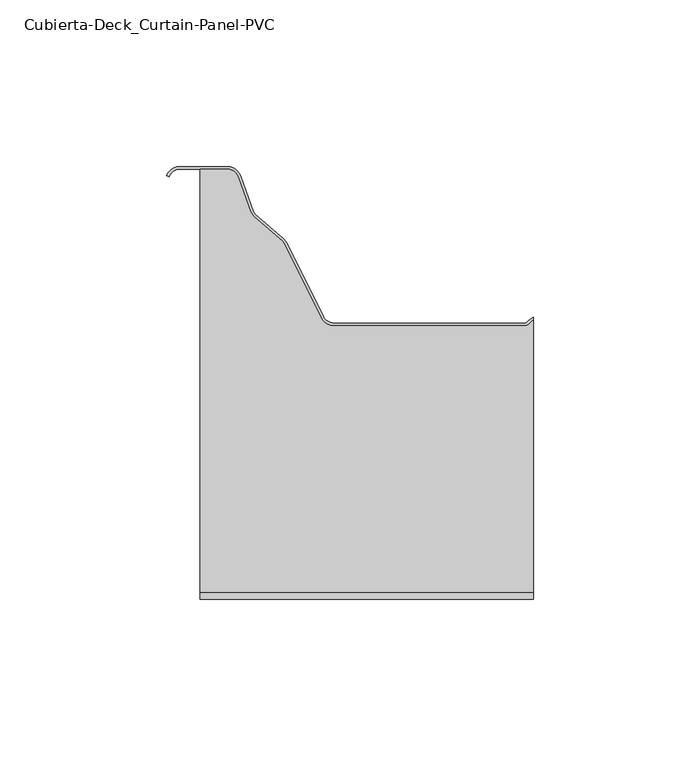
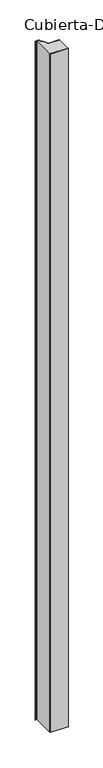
"""IFC4 building model written with IfcOpenShell, lengths in millimetres: plate geometry, Cubierta-Deck_Curtain-Panel-PVC : ACH_Cubierta-Deck_MW_80 mm."""

from ifc_helpers import new_model, si_unit, point, frame_2d, origin, origin_with_axes, place, context, project, spatial, polyline, circle_curve, trimmed, segment, composite_curve, outline, extrude, source, transform, mapped, element, save


def cubierta_deck_curtain_panel_pvc_f810d4f0(model_context):
    return source(origin(), model_context, "Body", "SweptSolid", [
        extrude(outline(composite_curve([segment(polyline([(-50.0, -128.8), (-50.0, -1.8), (-41.8323638, -1.8)]), True, "CONTINUOUS"), segment(trimmed(circle_curve(frame_2d((-41.8323638, -5.2)), 3.4), [point((-41.8323638, -1.8))], [point((-38.6330749, -4.0491088))], False, "CARTESIAN"), True, "CONTINUOUS"), segment(polyline([(-38.6330749, -4.0491088), (-34.8455616, -14.5777749)]), True, "CONTINUOUS"), segment(trimmed(circle_curve(frame_2d((-31.9285629, -13.5284329)), 3.1), [point((-34.8455616, -14.5777749))], [point((-33.9696761, -15.8616403))], True, "CARTESIAN"), True, "CONTINUOUS"), segment(polyline([(-33.9696761, -15.8616403), (-25.3099327, -23.4372709)]), True, "CONTINUOUS"), segment(trimmed(circle_curve(frame_2d((-27.2193612, -25.6199488)), 2.9), [point((-25.3099327, -23.4372709))], [point((-24.6223111, -24.3294719))], False, "CARTESIAN"), True, "CONTINUOUS"), segment(polyline([(-24.6223111, -24.3294719), (-13.6487521, -46.4134657)]), True, "CONTINUOUS"), segment(trimmed(circle_curve(frame_2d((-9.7979536, -44.5)), 4.3), [point((-13.6487521, -46.4134657))], [point((-9.7979536, -48.8))], True, "CARTESIAN"), True, "CONTINUOUS"), segment(polyline([(-9.7979536, -48.8), (46.9819404, -48.8)]), True, "CONTINUOUS"), segment(trimmed(circle_curve(frame_2d((46.9819404, -45.7)), 3.1), [point((46.9819404, -48.8))], [point((49.1739715, -47.892031))], True, "CARTESIAN"), True, "CONTINUOUS"), segment(polyline([(49.1739715, -47.892031), (49.7941272, -47.2718753)]), True, "CONTINUOUS"), segment(trimmed(circle_curve(frame_2d((51.4672218, -50.0020238)), 3.2020238), [point((49.7941272, -47.2718753))], [point((50.0, -47.1559359))], False, "CARTESIAN"), True, "CONTINUOUS"), segment(polyline([(50.0, -47.1559359), (50.0, -128.8), (-50.0, -128.8)]), True, "CONTINUOUS")], self_intersect=False)), origin_with_axes(), (0.0, 0.0, 1.0), 4000.0),
        extrude(outline(composite_curve([segment(polyline([(-56.1676362, -1.0), (-41.8323638, -1.0)]), True, "CONTINUOUS"), segment(trimmed(circle_curve(frame_2d((-41.8323638, -5.2)), 4.2), [point((-41.8323638, -1.0))], [point((-37.880301, -3.7783109))], False, "CARTESIAN"), True, "CONTINUOUS"), segment(polyline([(-37.880301, -3.7783109), (-34.0927877, -14.3069769)]), True, "CONTINUOUS"), segment(trimmed(circle_curve(frame_2d((-31.9285629, -13.5284329)), 2.3), [point((-34.0927877, -14.3069769))], [point((-33.4429372, -15.2595222))], True, "CARTESIAN"), True, "CONTINUOUS"), segment(polyline([(-33.4429372, -15.2595222), (-24.7831938, -22.8351529)]), True, "CONTINUOUS"), segment(trimmed(circle_curve(frame_2d((-27.2193612, -25.6199488)), 3.7), [point((-24.7831938, -22.8351529))], [point((-23.9058834, -23.9734783))], False, "CARTESIAN"), True, "CONTINUOUS"), segment(polyline([(-23.9058834, -23.9734783), (-12.9323245, -46.0574721)]), True, "CONTINUOUS"), segment(trimmed(circle_curve(frame_2d((-9.7979536, -44.5)), 3.5), [point((-12.9323245, -46.0574721))], [point((-9.7979536, -48.0))], True, "CARTESIAN"), True, "CONTINUOUS"), segment(polyline([(-9.7979536, -48.0), (46.9819404, -48.0)]), True, "CONTINUOUS"), segment(trimmed(circle_curve(frame_2d((46.9819404, -45.7)), 2.3), [point((46.9819404, -48.0))], [point((48.608286, -47.3263456))], True, "CARTESIAN"), True, "CONTINUOUS"), segment(polyline([(48.608286, -47.3263456), (49.2916152, -46.6430165)]), True, "CONTINUOUS"), segment(trimmed(circle_curve(frame_2d((51.4672218, -50.0020238)), 4.0020238), [point((49.2916152, -46.6430165))], [point((50.0, -46.2786578))], False, "CARTESIAN"), True, "CONTINUOUS"), segment(polyline([(50.0, -46.2786578), (50.0, -47.1559359)]), True, "CONTINUOUS"), segment(trimmed(circle_curve(frame_2d((51.4672218, -50.0020238)), 3.2020238), [point((50.0, -47.1559359))], [point((49.7941272, -47.2718753))], True, "CARTESIAN"), True, "CONTINUOUS"), segment(polyline([(49.7941272, -47.2718753), (49.1739715, -47.892031)]), True, "CONTINUOUS"), segment(trimmed(circle_curve(frame_2d((46.9819404, -45.7)), 3.1), [point((49.1739715, -47.892031))], [point((46.9819404, -48.8))], False, "CARTESIAN"), True, "CONTINUOUS"), segment(polyline([(46.9819404, -48.8), (-9.7979536, -48.8)]), True, "CONTINUOUS"), segment(trimmed(circle_curve(frame_2d((-9.7979536, -44.5)), 4.3), [point((-9.7979536, -48.8))], [point((-13.6487521, -46.4134657))], False, "CARTESIAN"), True, "CONTINUOUS"), segment(polyline([(-13.6487521, -46.4134657), (-24.6223111, -24.3294719)]), True, "CONTINUOUS"), segment(trimmed(circle_curve(frame_2d((-27.2193612, -25.6199488)), 2.9), [point((-24.6223111, -24.3294719))], [point((-25.3099327, -23.4372709))], True, "CARTESIAN"), True, "CONTINUOUS"), segment(polyline([(-25.3099327, -23.4372709), (-33.9696761, -15.8616403)]), True, "CONTINUOUS"), segment(trimmed(circle_curve(frame_2d((-31.9285629, -13.5284329)), 3.1), [point((-33.9696761, -15.8616403))], [point((-34.8455616, -14.5777749))], False, "CARTESIAN"), True, "CONTINUOUS"), segment(polyline([(-34.8455616, -14.5777749), (-38.6330749, -4.0491088)]), True, "CONTINUOUS"), segment(trimmed(circle_curve(frame_2d((-41.8323638, -5.2)), 3.4), [point((-38.6330749, -4.0491088))], [point((-41.8323638, -1.8))], True, "CARTESIAN"), True, "CONTINUOUS"), segment(polyline([(-41.8323638, -1.8), (-56.1676362, -1.8)]), True, "CONTINUOUS"), segment(trimmed(circle_curve(frame_2d((-56.1676362, -5.2)), 3.4), [point((-56.1676362, -1.8))], [point((-59.3669251, -4.0491088))], True, "CARTESIAN"), True, "CONTINUOUS"), segment(polyline([(-59.3669251, -4.0491088), (-60.119699, -3.7783109)]), True, "CONTINUOUS"), segment(trimmed(circle_curve(frame_2d((-56.1676362, -5.2)), 4.2), [point((-60.119699, -3.7783109))], [point((-56.1676362, -1.0))], False, "CARTESIAN"), True, "CONTINUOUS")], self_intersect=False)), origin_with_axes(), (0.0, 0.0, 1.0), 4000.0),
        extrude(outline(polyline([(-50.0, -130.8), (-50.0, -128.8), (50.0, -128.8), (50.0, -130.8), (-50.0, -130.8)])), origin_with_axes(), (0.0, 0.0, 1.0), 4000.0),
    ])


if __name__ == "__main__":
    model = new_model("IFC4")
    model_context = context("Model", 3, world=origin())
    ifc_project = project(units=[si_unit("LENGTHUNIT", "METRE", prefix="MILLI")], contexts=[model_context])
    site = spatial("IfcSite", under=ifc_project)
    building = spatial("IfcBuilding", under=site)
    placement = place(None, origin())
    cubierta_deck_curtain_panel_pvc_shape = cubierta_deck_curtain_panel_pvc_f810d4f0(model_context)
    element("IfcPlate", 1, ObjectType="Cubierta-Deck_Curtain-Panel-PVC : ACH_Cubierta-Deck_MW_80 mm", at=placement, inside=building, context=model_context, shape_type="MappedRepresentation", body=[
        mapped(cubierta_deck_curtain_panel_pvc_shape, transform((0.0, 0.0, 0.0), x_axis=(1.0, 0.0, 0.0), y_axis=(0.0, 1.0, 0.0), z_axis=(0.0, 0.0, 1.0))),
    ])
    save(model, "model.ifc")
